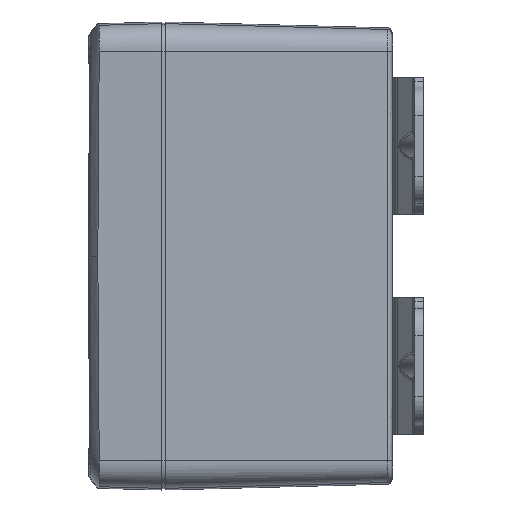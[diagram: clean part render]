
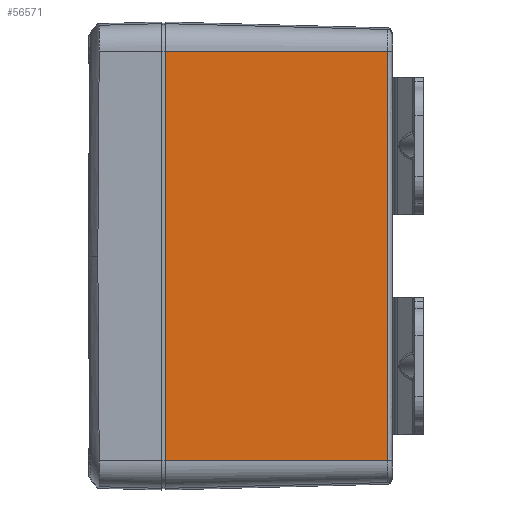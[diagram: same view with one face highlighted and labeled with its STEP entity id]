
A CAD part, left-side view. The second image highlights one B-rep face of the part: STEP entity #56571.
In plain terms, the highlighted planar face has unit normal (-1, -0.026, 0).
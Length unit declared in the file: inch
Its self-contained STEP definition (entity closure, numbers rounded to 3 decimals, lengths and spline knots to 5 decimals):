
#1525 = DIRECTION ( 'NONE',  ( 0.026, -1., 0. ) ) ;
#2297 = CARTESIAN_POINT ( 'NONE',  ( -2.82212, 0.04671, -1.85995 ) ) ;
#4792 = CARTESIAN_POINT ( 'NONE',  ( -2.875, 2.06625, -1.85995 ) ) ;
#7060 = VERTEX_POINT ( 'NONE', #11772 ) ;
#9735 = B_SPLINE_CURVE_WITH_KNOTS ( 'NONE', 3,
 ( #20963, #50782, #41012, #36981 ),
 .UNSPECIFIED., .F., .F.,
 ( 4, 4 ),
 ( 0., 1. ),
 .UNSPECIFIED. ) ;
#11772 = CARTESIAN_POINT ( 'NONE',  ( -2.82212, 0.04673, 1.85995 ) ) ;
#13132 = VERTEX_POINT ( 'NONE', #4792 ) ;
#15007 = CARTESIAN_POINT ( 'NONE',  ( -2.875, 2.06625, 1.85995 ) ) ;
#15393 = EDGE_CURVE ( 'NONE', #31877, #7060, #111405, .T. ) ;
#18612 = CARTESIAN_POINT ( 'NONE',  ( -2.875, 2.06625, -1.85995 ) ) ;
#18795 = CARTESIAN_POINT ( 'NONE',  ( -2.875, 2.06625, 1.85995 ) ) ;
#20660 = VERTEX_POINT ( 'NONE', #2297 ) ;
#20963 = CARTESIAN_POINT ( 'NONE',  ( -2.82212, 0.04671, -1.85995 ) ) ;
#23024 = EDGE_CURVE ( 'NONE', #13132, #31877, #67257, .T. ) ;
#27309 = DIRECTION ( 'NONE',  ( 0.026, -1., 0. ) ) ;
#31877 = VERTEX_POINT ( 'NONE', #15007 ) ;
#36981 = CARTESIAN_POINT ( 'NONE',  ( -2.82212, 0.04673, 1.85995 ) ) ;
#39769 = DIRECTION ( 'NONE',  ( 0., 0., 1. ) ) ;
#41012 = CARTESIAN_POINT ( 'NONE',  ( -2.82212, 0.04673, 0.61998 ) ) ;
#43037 = AXIS2_PLACEMENT_3D ( 'NONE', #18612, #76480, #1525 ) ;
#46114 = ORIENTED_EDGE ( 'NONE', *, *, #15393, .F. ) ;
#47745 = CARTESIAN_POINT ( 'NONE',  ( -2.875, 2.06625, -1.85995 ) ) ;
#49577 = VECTOR ( 'NONE', #90942, 39.37008 ) ;
#50782 = CARTESIAN_POINT ( 'NONE',  ( -2.82212, 0.04673, -0.61998 ) ) ;
#51965 = ORIENTED_EDGE ( 'NONE', *, *, #101627, .T. ) ;
#53799 = CARTESIAN_POINT ( 'NONE',  ( -2.875, 2.06625, -1.85995 ) ) ;
#54994 = LINE ( 'NONE', #53799, #49577 ) ;
#56571 = ADVANCED_FACE ( 'Face2', ( #83837 ), #111225, .T. ) ;
#64473 = EDGE_CURVE ( 'NONE', #20660, #7060, #9735, .T. ) ;
#67257 = LINE ( 'NONE', #47745, #84766 ) ;
#69735 = VECTOR ( 'NONE', #27309, 39.37008 ) ;
#76480 = DIRECTION ( 'NONE',  ( -1., -0.026, 0. ) ) ;
#78861 = ORIENTED_EDGE ( 'NONE', *, *, #64473, .T. ) ;
#83837 = FACE_OUTER_BOUND ( 'NONE', #86149, .T. ) ;
#84766 = VECTOR ( 'NONE', #39769, 39.37008 ) ;
#86149 = EDGE_LOOP ( 'NONE', ( #51965, #78861, #46114, #117547 ) ) ;
#90942 = DIRECTION ( 'NONE',  ( 0.026, -1., 0. ) ) ;
#101627 = EDGE_CURVE ( 'NONE', #13132, #20660, #54994, .T. ) ;
#111225 = PLANE ( 'NONE',  #43037 ) ;
#111405 = LINE ( 'NONE', #18795, #69735 ) ;
#117547 = ORIENTED_EDGE ( 'NONE', *, *, #23024, .F. ) ;
